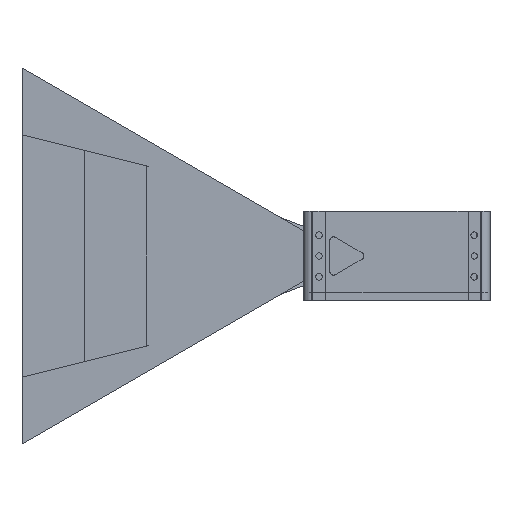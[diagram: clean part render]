
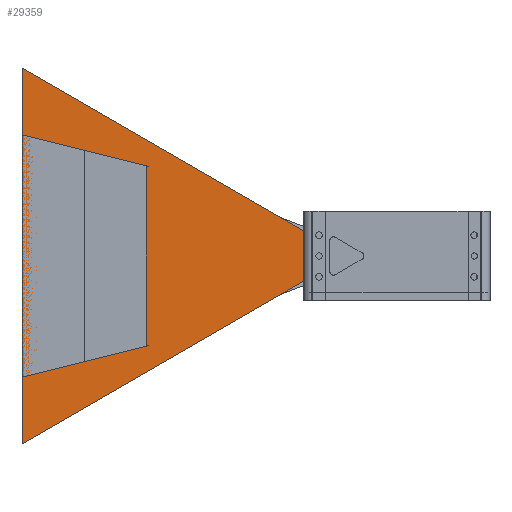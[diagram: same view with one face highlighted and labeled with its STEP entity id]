
A CAD part, left-side view. The second image highlights one B-rep face of the part: STEP entity #29359.
In plain terms, the highlighted planar face has unit normal (-1, 0, 0) as drawn and (-0.391, 0.921, 0) by its records, which use the part's own axes.
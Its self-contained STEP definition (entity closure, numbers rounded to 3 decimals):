
#1607=PLANE('',#32637);
#4399=FACE_OUTER_BOUND('',#6406,.T.);
#6406=EDGE_LOOP('',(#27080,#27081,#27082,#27083));
#8562=LINE('',#86254,#10721);
#8563=LINE('',#86256,#10722);
#8564=LINE('',#86258,#10723);
#8565=LINE('',#86259,#10724);
#10721=VECTOR('',#40689,10.);
#10722=VECTOR('',#40690,10.);
#10723=VECTOR('',#40691,10.);
#10724=VECTOR('',#40692,10.);
#14802=VERTEX_POINT('',#86252);
#14803=VERTEX_POINT('',#86253);
#14804=VERTEX_POINT('',#86255);
#14805=VERTEX_POINT('',#86257);
#18896=EDGE_CURVE('',#14802,#14803,#8562,.T.);
#18897=EDGE_CURVE('',#14803,#14804,#8563,.T.);
#18898=EDGE_CURVE('',#14804,#14805,#8564,.T.);
#18899=EDGE_CURVE('',#14805,#14802,#8565,.T.);
#27080=ORIENTED_EDGE('',*,*,#18896,.T.);
#27081=ORIENTED_EDGE('',*,*,#18897,.T.);
#27082=ORIENTED_EDGE('',*,*,#18898,.T.);
#27083=ORIENTED_EDGE('',*,*,#18899,.T.);
#29359=ADVANCED_FACE('',(#4399),#1607,.T.);
#32637=AXIS2_PLACEMENT_3D('',#86251,#40687,#40688);
#40687=DIRECTION('center_axis',(-0.391,0.921,0.));
#40688=DIRECTION('ref_axis',(0.,0.,1.));
#40689=DIRECTION('',(0.,0.,-1.));
#40690=DIRECTION('',(-0.797,-0.338,-0.5));
#40691=DIRECTION('',(0.,0.,1.));
#40692=DIRECTION('',(0.797,0.338,-0.5));
#86251=CARTESIAN_POINT('Origin',(-119.554,7.108,0.));
#86252=CARTESIAN_POINT('',(-35.965,42.59,10.5));
#86253=CARTESIAN_POINT('',(-35.965,42.59,-10.5));
#86254=CARTESIAN_POINT('',(-35.965,42.59,10.5));
#86255=CARTESIAN_POINT('',(-163.915,-11.722,-90.752));
#86256=CARTESIAN_POINT('',(-35.965,42.59,-10.5));
#86257=CARTESIAN_POINT('',(-163.915,-11.722,90.752));
#86258=CARTESIAN_POINT('',(-163.915,-11.722,-90.752));
#86259=CARTESIAN_POINT('',(-163.915,-11.722,90.752));
